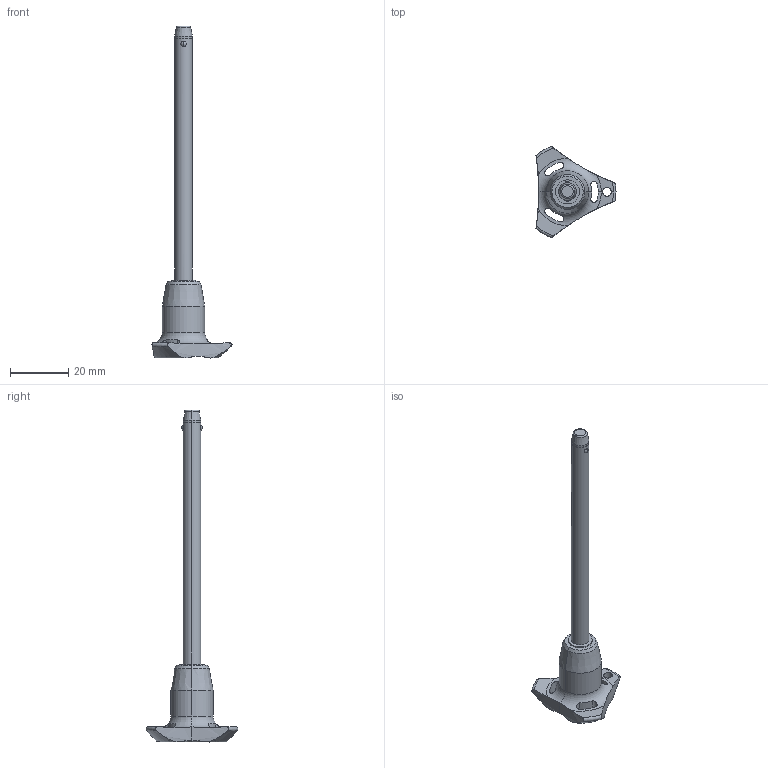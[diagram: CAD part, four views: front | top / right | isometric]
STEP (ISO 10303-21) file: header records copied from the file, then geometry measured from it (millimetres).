
FILE_DESCRIPTION (( 'STEP AP203' ), '1' );
FILE_NAME ('QR1726.M06-080-T.step', '2025-11-13T10:59:02', ( '' ), ( '' ), 'SwSTEP 2.0', 'SolidWorks 2019', '' );
FILE_SCHEMA (( 'CONFIG_CONTROL_DESIGN' ));
Length unit declared in the file: millimetre
Products named in the file (1): QR1726.M06-080-T
Bounding box: 27.4 x 31.31 x 113.7 mm (x, y, z)
Volume: 7227.9 mm3; surface area: 4060.9 mm2
Topology: 1 solids, 1 shells, 69 faces, 187 edges, 119 vertices
Faces by surface type: cylinder 32, cone 14, torus 12, sphere 6, plane 5
Entity records: 2789 total; most frequent: CARTESIAN_POINT 1010, ORIENTED_EDGE 374, DIRECTION 348, EDGE_CURVE 187, AXIS2_PLACEMENT_3D 155, VERTEX_POINT 119, CIRCLE 85, EDGE_LOOP 76
